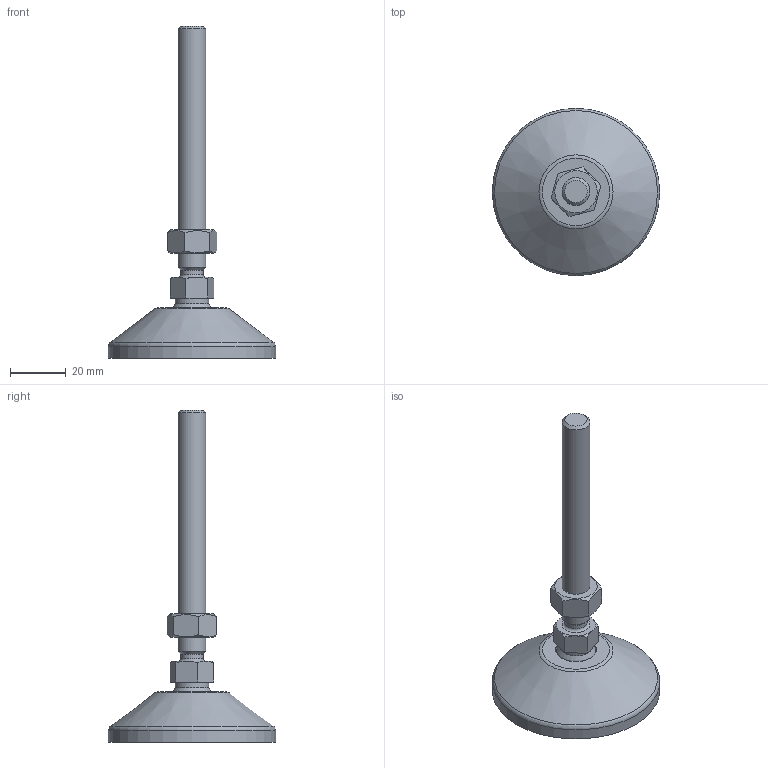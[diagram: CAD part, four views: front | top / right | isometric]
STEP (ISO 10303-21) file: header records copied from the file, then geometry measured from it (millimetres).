
FILE_DESCRIPTION(('STEP AP203'), '1');
FILE_NAME('栖闉罻', '', ('UNSPECIFIED'), ('UNSPECIFIED'), 'C3D Converter', 'C3D Toolkit', '');
FILE_SCHEMA(('CONFIG_CONTROL_DESIGN'));
Length unit declared in the file: millimetre
Products named in the file (4): A00020.110090; A00015.1060
Assembly tree (3 placements, depth 3):
  (unnamed)
    A00020.110090
      (unnamed)
    A00015.1060
Bounding box: 60 x 60 x 119 mm (x, y, z)
Volume: 31199.3 mm3; surface area: 14833 mm2
Topology: 3 solids, 3 shells, 158 faces, 415 edges, 275 vertices
Faces by surface type: plane 86, cylinder 34, torus 21, cone 15, sphere 2
Full cylindrical faces by diameter (mm): 4 x8, 8 x1, 8.376 x1, 10 x1, 12 x1, 14.3 x1, 15 x2, 15.5 x1, 50.5 x1, 60 x1
Entity records: 8241 total; most frequent: CARTESIAN_POINT 2996, DIRECTION 790, ORIENTED_EDGE 760, EDGE_CURVE 380, AXIS2_PLACEMENT_3D 322, VERTEX_POINT 274, EDGE_LOOP 206, FACE_BOUND 166
